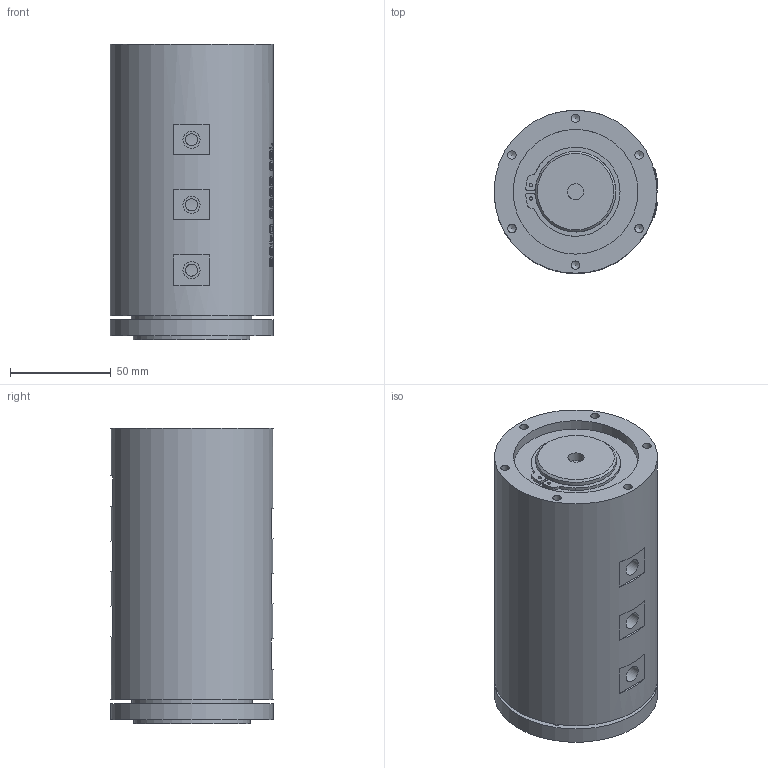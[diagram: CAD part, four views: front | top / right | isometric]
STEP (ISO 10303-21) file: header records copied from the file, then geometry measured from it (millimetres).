
FILE_DESCRIPTION(/* description */ (''),/* implementation_level */ '2;1');
FILE_NAME(/* name */ 'HY0601.stp',/* time_stamp */ '2025-01-20T15:35:15+08:00',/* author */ (''),/* organization */ (''),/* preprocessor_version */ 'ST-DEVELOPER v16.7',/* originating_system */ 'SIEMENS PLM Software NX 12.0',/* authorisation */ '');
FILE_SCHEMA (('AUTOMOTIVE_DESIGN { 1 0 10303 214 3 1 1 1 }'));
Length unit declared in the file: millimetre
Products named in the file (1): HX056BE06534dc36
Bounding box: 81.47 x 81 x 147 mm (x, y, z)
Volume: 727871.9 mm3; surface area: 60717.5 mm2
Topology: 1 solids, 1 shells, 451 faces, 1126 edges, 759 vertices
Faces by surface type: plane 238, extrusion 93, cylinder 84, bspline 29, cone 7
Full cylindrical faces by diameter (mm): 1.57 x2, 4.2 x12, 6 x12, 8 x2, 8.5 x12, 37.5 x1, 40 x1, 58 x1, 60 x1, 62 x1, 81 x2
Entity records: 32296 total; most frequent: CARTESIAN_POINT 22907, ORIENTED_EDGE 2048, DIRECTION 1443, EDGE_CURVE 1024, VERTEX_POINT 729, B_SPLINE_CURVE_WITH_KNOTS 688, EDGE_LOOP 615, AXIS2_PLACEMENT_3D 593
